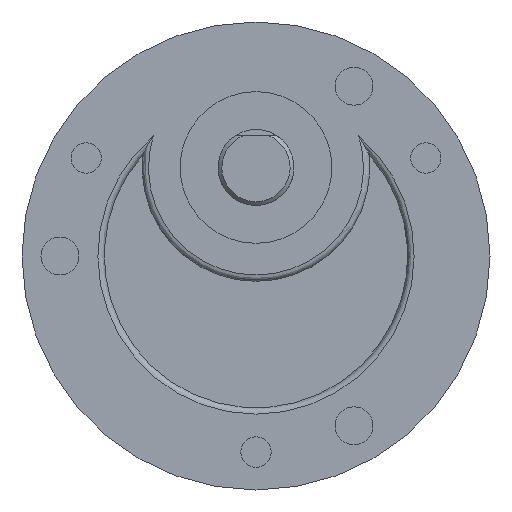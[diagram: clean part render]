
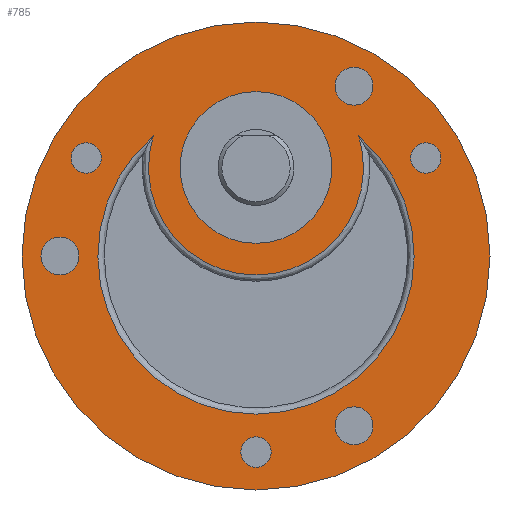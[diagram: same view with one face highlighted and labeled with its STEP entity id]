
A CAD part, front view. The second image highlights one B-rep face of the part: STEP entity #785.
In plain terms, the highlighted planar face has unit normal (0, -1, 0).
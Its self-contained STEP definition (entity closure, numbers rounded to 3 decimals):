
#605=CARTESIAN_POINT('',(8.124,0.0,9.5));
#606=VERTEX_POINT('',#605);
#607=CARTESIAN_POINT('',(-8.124,0.0,9.5));
#608=VERTEX_POINT('',#607);
#609=CARTESIAN_POINT('',(0.0,0.0,7.));
#610=DIRECTION('',(0.0,1.0,0.0));
#611=DIRECTION('',(0.0,0.0,-1.0));
#612=AXIS2_PLACEMENT_3D('',#609,#610,#611);
#613=CIRCLE('',#612,8.5);
#614=EDGE_CURVE('',#606,#608,#613,.T.);
#677=CARTESIAN_POINT('',(0.0,0.0,0.0));
#678=DIRECTION('',(0.0,-1.0,0.0));
#679=DIRECTION('',(0.0,0.0,-1.0));
#680=AXIS2_PLACEMENT_3D('',#677,#678,#679);
#681=CIRCLE('',#680,12.5);
#682=EDGE_CURVE('',#608,#606,#681,.T.);
#688=CARTESIAN_POINT('',(0.0,0.0,0.0));
#689=DIRECTION('',(0.0,-1.0,0.0));
#690=DIRECTION('',(0.0,0.0,-1.0));
#691=AXIS2_PLACEMENT_3D('',#688,#689,#690);
#692=PLANE('',#691);
#693=CARTESIAN_POINT('',(-18.5,0.0,0.));
#694=VERTEX_POINT('',#693);
#695=CARTESIAN_POINT('',(0.0,0.0,0.0));
#696=DIRECTION('',(0.0,-1.0,0.0));
#697=DIRECTION('',(1.0,0.0,0.0));
#698=AXIS2_PLACEMENT_3D('',#695,#696,#697);
#699=CIRCLE('',#698,18.5);
#700=EDGE_CURVE('',#694,#694,#699,.T.);
#701=ORIENTED_EDGE('',*,*,#700,.T.);
#702=EDGE_LOOP('',(#701));
#703=FACE_OUTER_BOUND('',#702,.T.);
#704=CARTESIAN_POINT('',(6.,0.0,7.));
#705=VERTEX_POINT('',#704);
#706=CARTESIAN_POINT('',(0.0,0.0,7.));
#707=DIRECTION('',(0.0,1.0,0.0));
#708=DIRECTION('',(-1.0,0.0,0.0));
#709=AXIS2_PLACEMENT_3D('',#706,#707,#708);
#710=CIRCLE('',#709,6.);
#711=EDGE_CURVE('',#705,#705,#710,.T.);
#712=ORIENTED_EDGE('',*,*,#711,.T.);
#713=EDGE_LOOP('',(#712));
#714=FACE_BOUND('',#713,.T.);
#715=CARTESIAN_POINT('',(9.25,0.0,13.423));
#716=VERTEX_POINT('',#715);
#717=CARTESIAN_POINT('',(7.75,0.0,13.423));
#718=DIRECTION('',(0.0,1.0,0.0));
#719=DIRECTION('',(-1.0,0.0,0.0));
#720=AXIS2_PLACEMENT_3D('',#717,#718,#719);
#721=CIRCLE('',#720,1.5);
#722=EDGE_CURVE('',#716,#716,#721,.T.);
#723=ORIENTED_EDGE('',*,*,#722,.T.);
#724=EDGE_LOOP('',(#723));
#725=FACE_BOUND('',#724,.T.);
#726=CARTESIAN_POINT('',(9.25,0.0,-13.423));
#727=VERTEX_POINT('',#726);
#728=CARTESIAN_POINT('',(7.75,0.0,-13.423));
#729=DIRECTION('',(0.0,1.0,0.0));
#730=DIRECTION('',(-1.0,0.0,0.0));
#731=AXIS2_PLACEMENT_3D('',#728,#729,#730);
#732=CIRCLE('',#731,1.5);
#733=EDGE_CURVE('',#727,#727,#732,.T.);
#734=ORIENTED_EDGE('',*,*,#733,.T.);
#735=EDGE_LOOP('',(#734));
#736=FACE_BOUND('',#735,.T.);
#737=CARTESIAN_POINT('',(-14.0,0.0,0.));
#738=VERTEX_POINT('',#737);
#739=CARTESIAN_POINT('',(-15.5,0.0,0.0));
#740=DIRECTION('',(0.0,1.0,0.0));
#741=DIRECTION('',(-1.0,0.0,0.0));
#742=AXIS2_PLACEMENT_3D('',#739,#740,#741);
#743=CIRCLE('',#742,1.5);
#744=EDGE_CURVE('',#738,#738,#743,.T.);
#745=ORIENTED_EDGE('',*,*,#744,.T.);
#746=EDGE_LOOP('',(#745));
#747=FACE_BOUND('',#746,.T.);
#748=CARTESIAN_POINT('',(14.623,0.0,7.75));
#749=VERTEX_POINT('',#748);
#750=CARTESIAN_POINT('',(13.423,0.0,7.75));
#751=DIRECTION('',(0.0,1.0,0.0));
#752=DIRECTION('',(-1.0,0.0,0.0));
#753=AXIS2_PLACEMENT_3D('',#750,#751,#752);
#754=CIRCLE('',#753,1.2);
#755=EDGE_CURVE('',#749,#749,#754,.T.);
#756=ORIENTED_EDGE('',*,*,#755,.T.);
#757=EDGE_LOOP('',(#756));
#758=FACE_BOUND('',#757,.T.);
#759=CARTESIAN_POINT('',(-12.223,0.0,7.75));
#760=VERTEX_POINT('',#759);
#761=CARTESIAN_POINT('',(-13.423,0.0,7.75));
#762=DIRECTION('',(0.0,1.0,0.0));
#763=DIRECTION('',(-1.0,0.0,0.0));
#764=AXIS2_PLACEMENT_3D('',#761,#762,#763);
#765=CIRCLE('',#764,1.2);
#766=EDGE_CURVE('',#760,#760,#765,.T.);
#767=ORIENTED_EDGE('',*,*,#766,.T.);
#768=EDGE_LOOP('',(#767));
#769=FACE_BOUND('',#768,.T.);
#770=CARTESIAN_POINT('',(1.2,0.0,-15.5));
#771=VERTEX_POINT('',#770);
#772=CARTESIAN_POINT('',(0.,0.0,-15.5));
#773=DIRECTION('',(0.0,1.0,0.0));
#774=DIRECTION('',(-1.0,0.0,0.0));
#775=AXIS2_PLACEMENT_3D('',#772,#773,#774);
#776=CIRCLE('',#775,1.2);
#777=EDGE_CURVE('',#771,#771,#776,.T.);
#778=ORIENTED_EDGE('',*,*,#777,.T.);
#779=EDGE_LOOP('',(#778));
#780=FACE_BOUND('',#779,.T.);
#781=ORIENTED_EDGE('',*,*,#614,.F.);
#782=ORIENTED_EDGE('',*,*,#682,.F.);
#783=EDGE_LOOP('',(#781,#782));
#784=FACE_BOUND('',#783,.T.);
#785=ADVANCED_FACE('',(#703,#714,#725,#736,#747,#758,#769,#780,#784),#692,.T.);
